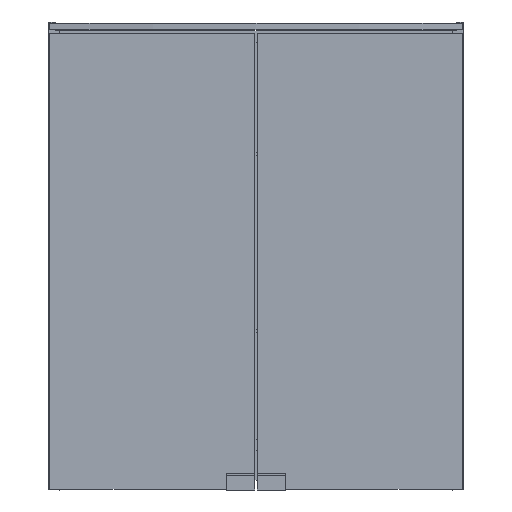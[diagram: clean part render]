
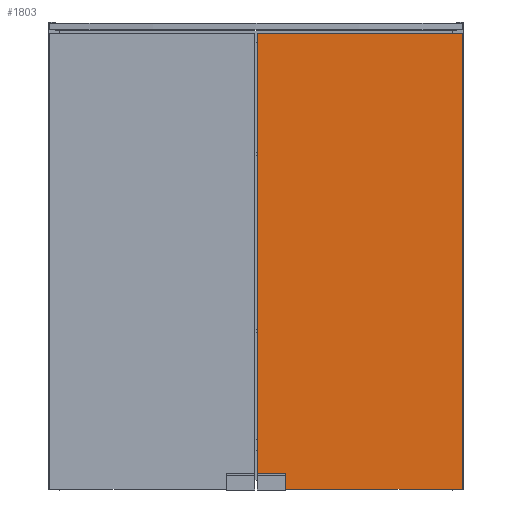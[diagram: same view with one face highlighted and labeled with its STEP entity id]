
A CAD part, front view. The second image highlights one B-rep face of the part: STEP entity #1803.
In plain terms, the highlighted planar face has unit normal (0, -1, 0).
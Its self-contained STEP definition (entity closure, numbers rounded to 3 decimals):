
#27=FACE_OUTER_BOUND('',#117,.T.);
#117=EDGE_LOOP('',(#1147,#1148,#1149,#1150,#1151,#1152));
#206=LINE('',#2445,#454);
#223=LINE('',#2478,#471);
#226=LINE('',#2485,#474);
#227=LINE('',#2487,#475);
#228=LINE('',#2489,#476);
#229=LINE('',#2490,#477);
#454=VECTOR('',#2008,10.);
#471=VECTOR('',#2033,10.);
#474=VECTOR('',#2040,10.);
#475=VECTOR('',#2041,10.);
#476=VECTOR('',#2042,10.);
#477=VECTOR('',#2043,10.);
#702=VERTEX_POINT('',#2442);
#703=VERTEX_POINT('',#2444);
#715=VERTEX_POINT('',#2476);
#717=VERTEX_POINT('',#2484);
#718=VERTEX_POINT('',#2486);
#719=VERTEX_POINT('',#2488);
#868=EDGE_CURVE('',#703,#702,#206,.T.);
#885=EDGE_CURVE('',#702,#715,#223,.T.);
#888=EDGE_CURVE('',#715,#717,#226,.T.);
#889=EDGE_CURVE('',#717,#718,#227,.T.);
#890=EDGE_CURVE('',#719,#718,#228,.T.);
#891=EDGE_CURVE('',#703,#719,#229,.T.);
#1147=ORIENTED_EDGE('',*,*,#868,.T.);
#1148=ORIENTED_EDGE('',*,*,#885,.T.);
#1149=ORIENTED_EDGE('',*,*,#888,.T.);
#1150=ORIENTED_EDGE('',*,*,#889,.T.);
#1151=ORIENTED_EDGE('',*,*,#890,.F.);
#1152=ORIENTED_EDGE('',*,*,#891,.F.);
#1621=PLANE('',#1915);
#1803=ADVANCED_FACE('',(#27),#1621,.T.);
#1915=AXIS2_PLACEMENT_3D('',#2483,#2038,#2039);
#2008=DIRECTION('',(0.,0.,-1.));
#2033=DIRECTION('',(1.,0.,0.));
#2038=DIRECTION('center_axis',(0.,-1.,0.));
#2039=DIRECTION('ref_axis',(0.,0.,-1.));
#2040=DIRECTION('',(0.,0.,-1.));
#2041=DIRECTION('',(1.,0.,0.));
#2042=DIRECTION('',(0.,0.,-1.));
#2043=DIRECTION('',(1.,0.,0.));
#2442=CARTESIAN_POINT('',(1.5,-140.,24.));
#2444=CARTESIAN_POINT('',(1.5,-140.,661.));
#2445=CARTESIAN_POINT('',(1.5,-140.,329.5));
#2476=CARTESIAN_POINT('',(42.5,-140.,24.));
#2478=CARTESIAN_POINT('',(0.,-140.,24.));
#2483=CARTESIAN_POINT('Origin',(0.,-140.,661.));
#2484=CARTESIAN_POINT('',(42.5,-140.,1.));
#2485=CARTESIAN_POINT('',(42.5,-140.,337.109));
#2486=CARTESIAN_POINT('',(298.5,-140.,1.));
#2487=CARTESIAN_POINT('',(0.,-140.,1.));
#2488=CARTESIAN_POINT('',(298.5,-140.,661.));
#2489=CARTESIAN_POINT('',(298.5,-140.,661.));
#2490=CARTESIAN_POINT('',(0.,-140.,661.));
